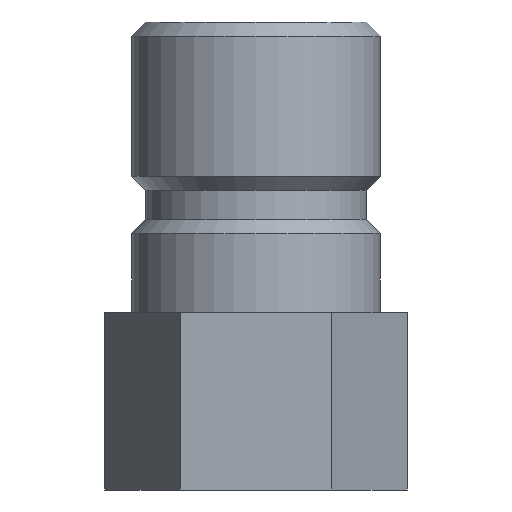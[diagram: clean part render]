
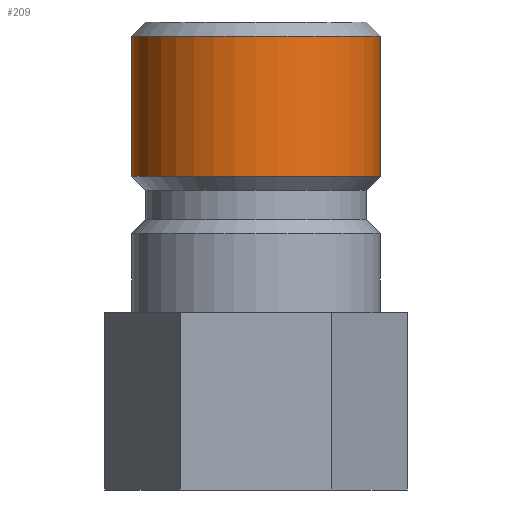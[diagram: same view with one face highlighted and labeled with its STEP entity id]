
A CAD part, left-side view. The second image highlights one B-rep face of the part: STEP entity #209.
In plain terms, the highlighted cylindrical face has radius 6.744 mm (diameter 13.487 mm), a partial arc.
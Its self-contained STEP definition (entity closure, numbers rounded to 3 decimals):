
#9 = CARTESIAN_POINT ( 'NONE',  ( 0., 6.744, 0. ) ) ;
#65 = CARTESIAN_POINT ( 'NONE',  ( 0., 6.744, 14.986 ) ) ;
#69 = CARTESIAN_POINT ( 'NONE',  ( 0., 0., 14.986 ) ) ;
#96 = ORIENTED_EDGE ( 'NONE', *, *, #495, .T. ) ;
#103 = DIRECTION ( 'NONE',  ( 0., 0., -1. ) ) ;
#120 = VERTEX_POINT ( 'NONE', #273 ) ;
#159 = CIRCLE ( 'NONE', #757, 6.744 ) ;
#169 = EDGE_CURVE ( 'NONE', #120, #371, #524, .T. ) ;
#178 = DIRECTION ( 'NONE',  ( 0., 1., 0. ) ) ;
#209 = ADVANCED_FACE ( 'NONE', ( #489 ), #627, .T. ) ;
#261 = AXIS2_PLACEMENT_3D ( 'NONE', #414, #588, #301 ) ;
#273 = CARTESIAN_POINT ( 'NONE',  ( 0., -6.744, 14.986 ) ) ;
#301 = DIRECTION ( 'NONE',  ( 0., 1., 0. ) ) ;
#308 = DIRECTION ( 'NONE',  ( 0., 0., -1. ) ) ;
#322 = EDGE_CURVE ( 'NONE', #371, #617, #159, .T. ) ;
#325 = DIRECTION ( 'NONE',  ( 0., 0., -1. ) ) ;
#356 = AXIS2_PLACEMENT_3D ( 'NONE', #69, #325, #376 ) ;
#371 = VERTEX_POINT ( 'NONE', #654 ) ;
#376 = DIRECTION ( 'NONE',  ( 0., 1., 0. ) ) ;
#379 = CIRCLE ( 'NONE', #356, 6.744 ) ;
#414 = CARTESIAN_POINT ( 'NONE',  ( 0., 0., 0. ) ) ;
#419 = CARTESIAN_POINT ( 'NONE',  ( 0., 0., 7.366 ) ) ;
#433 = EDGE_CURVE ( 'NONE', #461, #617, #644, .T. ) ;
#443 = CARTESIAN_POINT ( 'NONE',  ( 0., 6.744, 7.366 ) ) ;
#461 = VERTEX_POINT ( 'NONE', #65 ) ;
#489 = FACE_OUTER_BOUND ( 'NONE', #494, .T. ) ;
#492 = VECTOR ( 'NONE', #608, 1000. ) ;
#494 = EDGE_LOOP ( 'NONE', ( #556, #96, #758, #673 ) ) ;
#495 = EDGE_CURVE ( 'NONE', #120, #461, #379, .T. ) ;
#502 = VECTOR ( 'NONE', #103, 1000. ) ;
#524 = LINE ( 'NONE', #583, #502 ) ;
#556 = ORIENTED_EDGE ( 'NONE', *, *, #169, .F. ) ;
#583 = CARTESIAN_POINT ( 'NONE',  ( 0., -6.744, 0. ) ) ;
#588 = DIRECTION ( 'NONE',  ( 0., 0., -1. ) ) ;
#608 = DIRECTION ( 'NONE',  ( 0., 0., -1. ) ) ;
#617 = VERTEX_POINT ( 'NONE', #443 ) ;
#627 = CYLINDRICAL_SURFACE ( 'NONE', #261, 6.744 ) ;
#644 = LINE ( 'NONE', #9, #492 ) ;
#654 = CARTESIAN_POINT ( 'NONE',  ( 0., -6.744, 7.366 ) ) ;
#673 = ORIENTED_EDGE ( 'NONE', *, *, #322, .F. ) ;
#757 = AXIS2_PLACEMENT_3D ( 'NONE', #419, #308, #178 ) ;
#758 = ORIENTED_EDGE ( 'NONE', *, *, #433, .T. ) ;
